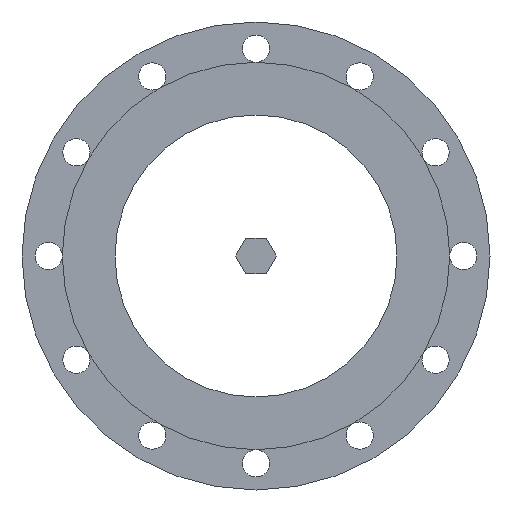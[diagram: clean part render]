
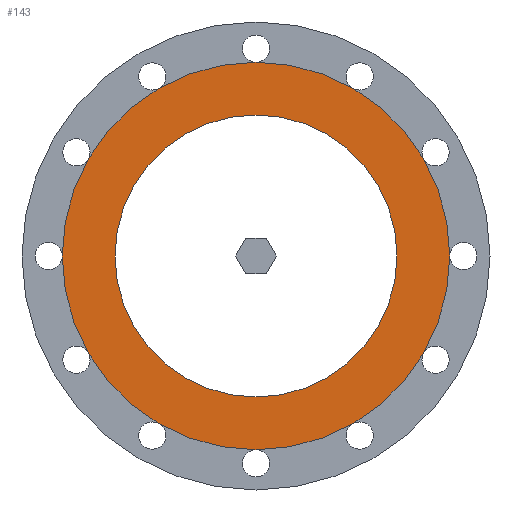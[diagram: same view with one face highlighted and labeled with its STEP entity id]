
A CAD part, front view. The second image highlights one B-rep face of the part: STEP entity #143.
In plain terms, the highlighted planar face has unit normal (0, -1, 0).
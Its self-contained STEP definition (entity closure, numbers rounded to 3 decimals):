
#143 = ADVANCED_FACE( '', ( #279, #280 ), #281, .T. );
#279 = FACE_OUTER_BOUND( '', #429, .T. );
#280 = FACE_BOUND( '', #430, .T. );
#281 = PLANE( '', #431 );
#429 = EDGE_LOOP( '', ( #609 ) );
#430 = EDGE_LOOP( '', ( #610 ) );
#431 = AXIS2_PLACEMENT_3D( '', #611, #612, #613 );
#609 = ORIENTED_EDGE( '', *, *, #779, .T. );
#610 = ORIENTED_EDGE( '', *, *, #780, .F. );
#611 = CARTESIAN_POINT( '', ( 119., 0., 0. ) );
#612 = DIRECTION( '', ( 0., -1., 0. ) );
#613 = DIRECTION( '', ( 0., 0., -1. ) );
#779 = EDGE_CURVE( '', #894, #894, #895, .T. );
#780 = EDGE_CURVE( '', #896, #896, #897, .T. );
#894 = VERTEX_POINT( '', #1035 );
#895 = CIRCLE( '', #1036, 163.5 );
#896 = VERTEX_POINT( '', #1037 );
#897 = CIRCLE( '', #1038, 119. );
#1035 = CARTESIAN_POINT( '', ( 0., 0., -163.5 ) );
#1036 = AXIS2_PLACEMENT_3D( '', #1166, #1167, #1168 );
#1037 = CARTESIAN_POINT( '', ( 0., 0., -119. ) );
#1038 = AXIS2_PLACEMENT_3D( '', #1169, #1170, #1171 );
#1166 = CARTESIAN_POINT( '', ( 0., 0., 0. ) );
#1167 = DIRECTION( '', ( 0., -1., 0. ) );
#1168 = DIRECTION( '', ( 0., 0., -1. ) );
#1169 = CARTESIAN_POINT( '', ( 0., 0., 0. ) );
#1170 = DIRECTION( '', ( 0., -1., 0. ) );
#1171 = DIRECTION( '', ( 0., 0., -1. ) );
